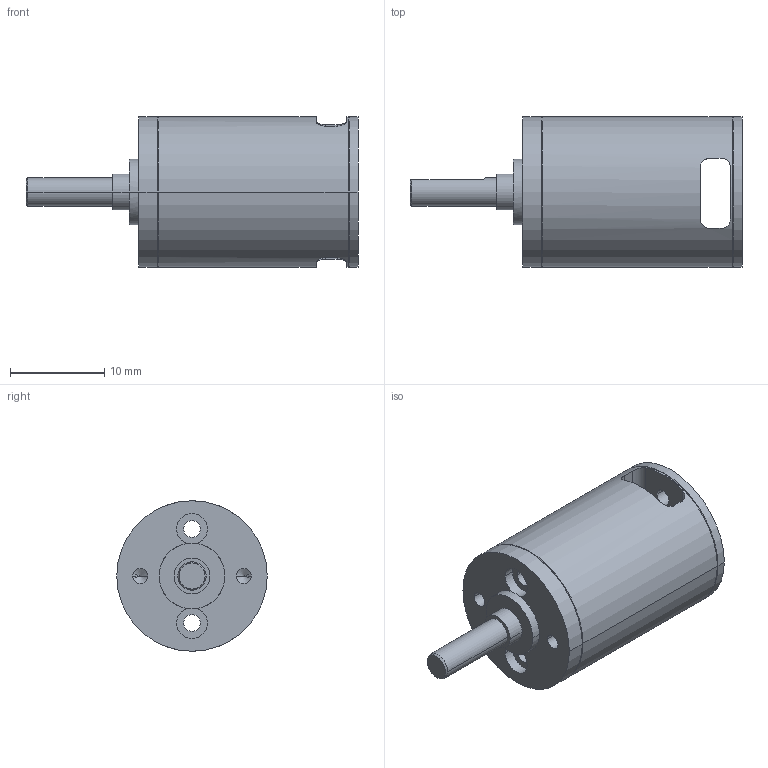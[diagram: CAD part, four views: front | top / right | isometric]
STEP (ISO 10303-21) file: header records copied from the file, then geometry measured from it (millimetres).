
FILE_DESCRIPTION((''),'2;1');
FILE_NAME('GS16VZ','2016-10-06T',('mmagpetk'),(''),'CREO PARAMETRIC BY PTC INC, 2016050','CREO PARAMETRIC BY PTC INC, 2016050','');
FILE_SCHEMA(('CONFIG_CONTROL_DESIGN'));
Length unit declared in the file: millimetre
Products named in the file (1): GS16VZ
Bounding box: 35.3 x 16 x 16 mm (x, y, z)
Volume: 3923.7 mm3; surface area: 2484.3 mm2
Topology: 1 solids, 1 shells, 65 faces, 157 edges, 96 vertices
Faces by surface type: cylinder 36, plane 16, cone 13
Entity records: 2524 total; most frequent: CARTESIAN_POINT 380, DIRECTION 352, ORIENTED_EDGE 306, PRESENTATION_STYLE_ASSIGNMENT 154, STYLED_ITEM 154, CURVE_STYLE 153, EDGE_CURVE 153, AXIS2_PLACEMENT_3D 146
